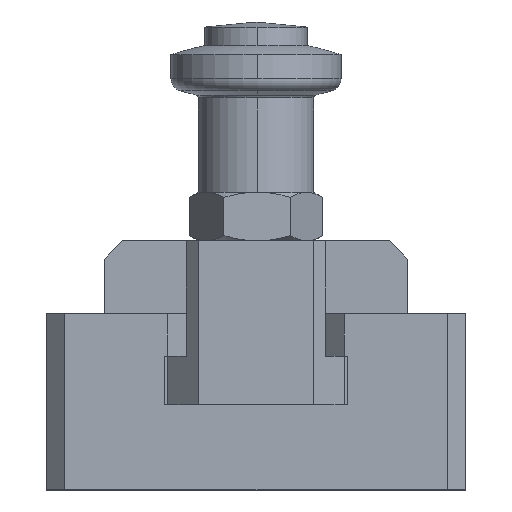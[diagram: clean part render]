
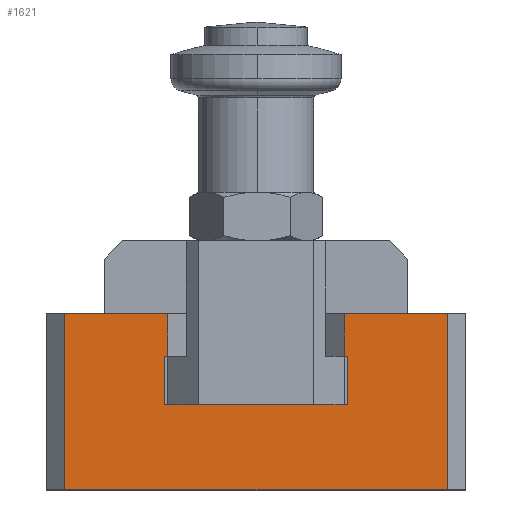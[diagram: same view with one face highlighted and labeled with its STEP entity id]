
A CAD part, front view. The second image highlights one B-rep face of the part: STEP entity #1621.
In plain terms, the highlighted planar face has unit normal (0, -1, 0).
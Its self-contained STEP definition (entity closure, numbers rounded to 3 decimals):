
#58 = PLANE ( 'NONE',  #2389 ) ;
#225 = EDGE_LOOP ( 'NONE', ( #2967, #6223, #3474, #4841, #1739, #3171, #2885, #1289, #1260, #962, #3711, #3052 ) ) ;
#380 = CARTESIAN_POINT ( 'NONE',  ( 15., 0., -22. ) ) ;
#472 = LINE ( 'NONE', #1954, #6283 ) ;
#514 = DIRECTION ( 'NONE',  ( 0., 0., -1. ) ) ;
#638 = DIRECTION ( 'NONE',  ( 1., 0., 0. ) ) ;
#639 = VERTEX_POINT ( 'NONE', #6578 ) ;
#766 = CARTESIAN_POINT ( 'NONE',  ( -34.5, 0., -29. ) ) ;
#778 = VECTOR ( 'NONE', #3419, 1000. ) ;
#835 = CARTESIAN_POINT ( 'NONE',  ( -14.5, 0., -22. ) ) ;
#872 = CARTESIAN_POINT ( 'NONE',  ( 14.5, 0., -29. ) ) ;
#962 = ORIENTED_EDGE ( 'NONE', *, *, #1315, .F. ) ;
#990 = VERTEX_POINT ( 'NONE', #380 ) ;
#1014 = CARTESIAN_POINT ( 'NONE',  ( -14.5, 0., 0. ) ) ;
#1026 = VECTOR ( 'NONE', #4336, 1000. ) ;
#1202 = DIRECTION ( 'NONE',  ( -1., 0., 0. ) ) ;
#1211 = VERTEX_POINT ( 'NONE', #5244 ) ;
#1260 = ORIENTED_EDGE ( 'NONE', *, *, #1313, .F. ) ;
#1289 = ORIENTED_EDGE ( 'NONE', *, *, #3553, .T. ) ;
#1313 = EDGE_CURVE ( 'NONE', #639, #1335, #4362, .T. ) ;
#1315 = EDGE_CURVE ( 'NONE', #4025, #639, #5435, .T. ) ;
#1335 = VERTEX_POINT ( 'NONE', #835 ) ;
#1415 = CARTESIAN_POINT ( 'NONE',  ( 31.5, 0., 0. ) ) ;
#1428 = CARTESIAN_POINT ( 'NONE',  ( -31.5, 0., -29. ) ) ;
#1621 = ADVANCED_FACE ( 'NONE', ( #6316 ), #58, .F. ) ;
#1640 = LINE ( 'NONE', #4644, #6331 ) ;
#1678 = LINE ( 'NONE', #6408, #1026 ) ;
#1707 = LINE ( 'NONE', #766, #5324 ) ;
#1739 = ORIENTED_EDGE ( 'NONE', *, *, #4691, .F. ) ;
#1745 = LINE ( 'NONE', #3864, #6369 ) ;
#1883 = VERTEX_POINT ( 'NONE', #1428 ) ;
#1954 = CARTESIAN_POINT ( 'NONE',  ( 11.5, 0., -29. ) ) ;
#2149 = LINE ( 'NONE', #6235, #4052 ) ;
#2165 = VERTEX_POINT ( 'NONE', #6509 ) ;
#2389 = AXIS2_PLACEMENT_3D ( 'NONE', #6188, #4388, #4320 ) ;
#2661 = VERTEX_POINT ( 'NONE', #872 ) ;
#2683 = DIRECTION ( 'NONE',  ( -1., 0., 0. ) ) ;
#2727 = EDGE_CURVE ( 'NONE', #3696, #990, #3996, .T. ) ;
#2783 = DIRECTION ( 'NONE',  ( 0., 0., -1. ) ) ;
#2885 = ORIENTED_EDGE ( 'NONE', *, *, #2942, .F. ) ;
#2942 = EDGE_CURVE ( 'NONE', #4190, #1883, #1707, .T. ) ;
#2949 = DIRECTION ( 'NONE',  ( -1., 0., 0. ) ) ;
#2957 = DIRECTION ( 'NONE',  ( 0., 0., 1. ) ) ;
#2959 = VECTOR ( 'NONE', #514, 1000. ) ;
#2967 = ORIENTED_EDGE ( 'NONE', *, *, #2727, .F. ) ;
#3052 = ORIENTED_EDGE ( 'NONE', *, *, #4815, .F. ) ;
#3053 = CARTESIAN_POINT ( 'NONE',  ( 14.5, 0., 0. ) ) ;
#3171 = ORIENTED_EDGE ( 'NONE', *, *, #4818, .T. ) ;
#3296 = CARTESIAN_POINT ( 'NONE',  ( -31.5, 0., 0. ) ) ;
#3341 = VERTEX_POINT ( 'NONE', #3296 ) ;
#3378 = CARTESIAN_POINT ( 'NONE',  ( -11.5, 0., -22. ) ) ;
#3419 = DIRECTION ( 'NONE',  ( 1., 0., 0. ) ) ;
#3458 = DIRECTION ( 'NONE',  ( 0., 0., 1. ) ) ;
#3474 = ORIENTED_EDGE ( 'NONE', *, *, #6300, .F. ) ;
#3553 = EDGE_CURVE ( 'NONE', #4190, #1335, #6112, .T. ) ;
#3572 = EDGE_CURVE ( 'NONE', #3696, #2661, #4585, .T. ) ;
#3692 = CARTESIAN_POINT ( 'NONE',  ( 15., 0., -14. ) ) ;
#3696 = VERTEX_POINT ( 'NONE', #5211 ) ;
#3711 = ORIENTED_EDGE ( 'NONE', *, *, #6087, .F. ) ;
#3864 = CARTESIAN_POINT ( 'NONE',  ( -31.5, 0., 0. ) ) ;
#3996 = LINE ( 'NONE', #5976, #4995 ) ;
#4025 = VERTEX_POINT ( 'NONE', #4219 ) ;
#4052 = VECTOR ( 'NONE', #2683, 1000. ) ;
#4190 = VERTEX_POINT ( 'NONE', #5425 ) ;
#4219 = CARTESIAN_POINT ( 'NONE',  ( -15., 0., -14. ) ) ;
#4320 = DIRECTION ( 'NONE',  ( 0., 0., 1. ) ) ;
#4336 = DIRECTION ( 'NONE',  ( 0., 0., 1. ) ) ;
#4362 = LINE ( 'NONE', #3378, #778 ) ;
#4388 = DIRECTION ( 'NONE',  ( 0., 1., 0. ) ) ;
#4404 = LINE ( 'NONE', #1415, #5631 ) ;
#4477 = VECTOR ( 'NONE', #2957, 1000. ) ;
#4585 = LINE ( 'NONE', #3053, #2959 ) ;
#4644 = CARTESIAN_POINT ( 'NONE',  ( 34.5, 0., 0. ) ) ;
#4691 = EDGE_CURVE ( 'NONE', #3341, #1211, #1640, .T. ) ;
#4815 = EDGE_CURVE ( 'NONE', #990, #6013, #1678, .T. ) ;
#4818 = EDGE_CURVE ( 'NONE', #3341, #1883, #1745, .T. ) ;
#4841 = ORIENTED_EDGE ( 'NONE', *, *, #4964, .T. ) ;
#4964 = EDGE_CURVE ( 'NONE', #2165, #1211, #4404, .T. ) ;
#4995 = VECTOR ( 'NONE', #5575, 1000. ) ;
#4998 = DIRECTION ( 'NONE',  ( 0., 0., -1. ) ) ;
#5211 = CARTESIAN_POINT ( 'NONE',  ( 14.5, 0., -22. ) ) ;
#5244 = CARTESIAN_POINT ( 'NONE',  ( 31.5, 0., 0. ) ) ;
#5324 = VECTOR ( 'NONE', #1202, 1000. ) ;
#5370 = CARTESIAN_POINT ( 'NONE',  ( -15., 0., -22. ) ) ;
#5425 = CARTESIAN_POINT ( 'NONE',  ( -14.5, 0., -29. ) ) ;
#5435 = LINE ( 'NONE', #5370, #6551 ) ;
#5575 = DIRECTION ( 'NONE',  ( 1., 0., 0. ) ) ;
#5631 = VECTOR ( 'NONE', #3458, 1000. ) ;
#5976 = CARTESIAN_POINT ( 'NONE',  ( 15., 0., -22. ) ) ;
#6013 = VERTEX_POINT ( 'NONE', #3692 ) ;
#6087 = EDGE_CURVE ( 'NONE', #6013, #4025, #2149, .T. ) ;
#6112 = LINE ( 'NONE', #1014, #4477 ) ;
#6188 = CARTESIAN_POINT ( 'NONE',  ( 0., 0., 0. ) ) ;
#6223 = ORIENTED_EDGE ( 'NONE', *, *, #3572, .T. ) ;
#6235 = CARTESIAN_POINT ( 'NONE',  ( -15., 0., -14. ) ) ;
#6283 = VECTOR ( 'NONE', #2949, 1000. ) ;
#6300 = EDGE_CURVE ( 'NONE', #2165, #2661, #472, .T. ) ;
#6316 = FACE_OUTER_BOUND ( 'NONE', #225, .T. ) ;
#6331 = VECTOR ( 'NONE', #638, 1000. ) ;
#6369 = VECTOR ( 'NONE', #2783, 1000. ) ;
#6408 = CARTESIAN_POINT ( 'NONE',  ( 15., 0., -14. ) ) ;
#6509 = CARTESIAN_POINT ( 'NONE',  ( 31.5, 0., -29. ) ) ;
#6551 = VECTOR ( 'NONE', #4998, 1000. ) ;
#6578 = CARTESIAN_POINT ( 'NONE',  ( -15., 0., -22. ) ) ;
